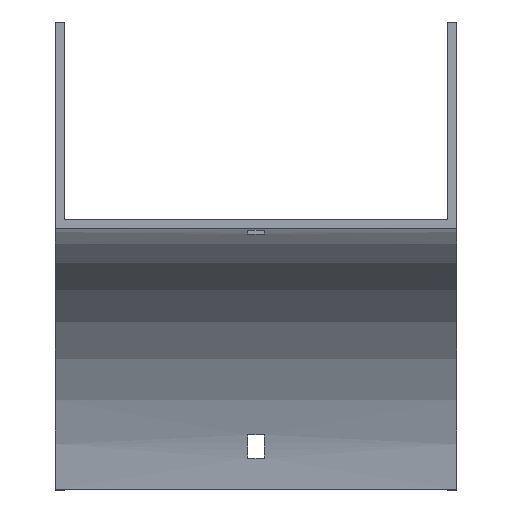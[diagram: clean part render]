
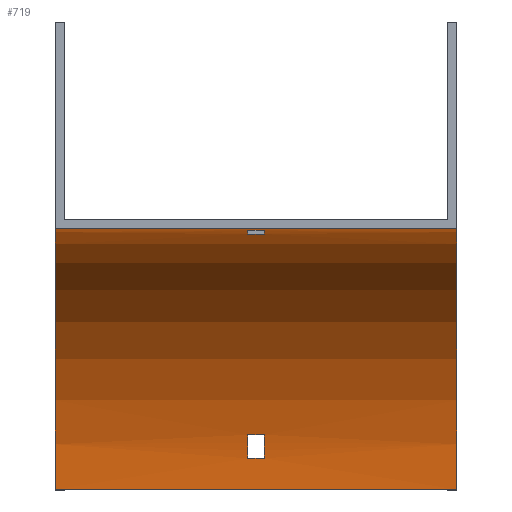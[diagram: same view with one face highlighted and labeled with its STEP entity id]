
A CAD part, top view. The second image highlights one B-rep face of the part: STEP entity #719.
In plain terms, the highlighted cylindrical face has radius 100 mm (diameter 200 mm), a partial arc.
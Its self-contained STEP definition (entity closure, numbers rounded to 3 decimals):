
#8 = LINE ( 'NONE', #390, #1460 ) ;
#20 = DIRECTION ( 'NONE',  ( 0., 0., 1. ) ) ;
#26 = CARTESIAN_POINT ( 'NONE',  ( -3.25, -100., 0. ) ) ;
#30 = CARTESIAN_POINT ( 'NONE',  ( 77., -0.723, -12. ) ) ;
#34 = ORIENTED_EDGE ( 'NONE', *, *, #503, .F. ) ;
#44 = VECTOR ( 'NONE', #522, 1000. ) ;
#61 = ORIENTED_EDGE ( 'NONE', *, *, #143, .T. ) ;
#72 = VECTOR ( 'NONE', #128, 1000. ) ;
#107 = VECTOR ( 'NONE', #1092, 1000. ) ;
#120 = DIRECTION ( 'NONE',  ( 0., 0., -1. ) ) ;
#128 = DIRECTION ( 'NONE',  ( -1., 0., 0. ) ) ;
#135 = LINE ( 'NONE', #30, #44 ) ;
#143 = EDGE_CURVE ( 'NONE', #1146, #585, #1158, .T. ) ;
#149 = DIRECTION ( 'NONE',  ( -1., 0., 0. ) ) ;
#150 = DIRECTION ( 'NONE',  ( -1., 0., 0. ) ) ;
#200 = CARTESIAN_POINT ( 'NONE',  ( 77., -100., 0. ) ) ;
#213 = EDGE_CURVE ( 'NONE', #1070, #1326, #393, .T. ) ;
#214 = AXIS2_PLACEMENT_3D ( 'NONE', #1019, #1515, #120 ) ;
#227 = ORIENTED_EDGE ( 'NONE', *, *, #1462, .F. ) ;
#228 = DIRECTION ( 'NONE',  ( -1., 0., 0. ) ) ;
#240 = AXIS2_PLACEMENT_3D ( 'NONE', #200, #1333, #1606 ) ;
#290 = EDGE_LOOP ( 'NONE', ( #1186, #227, #1531, #893 ) ) ;
#301 = ORIENTED_EDGE ( 'NONE', *, *, #1032, .T. ) ;
#302 = EDGE_CURVE ( 'NONE', #1107, #1503, #8, .T. ) ;
#308 = CARTESIAN_POINT ( 'NONE',  ( 3.25, -2.23, -21. ) ) ;
#320 = CIRCLE ( 'NONE', #240, 100. ) ;
#327 = VERTEX_POINT ( 'NONE', #693 ) ;
#344 = AXIS2_PLACEMENT_3D ( 'NONE', #634, #228, #753 ) ;
#363 = ORIENTED_EDGE ( 'NONE', *, *, #213, .F. ) ;
#375 = CIRCLE ( 'NONE', #710, 100. ) ;
#379 = LINE ( 'NONE', #1051, #1354 ) ;
#390 = CARTESIAN_POINT ( 'NONE',  ( 77., 0., 0. ) ) ;
#393 = CIRCLE ( 'NONE', #1189, 100. ) ;
#431 = LINE ( 'NONE', #700, #107 ) ;
#436 = FACE_OUTER_BOUND ( 'NONE', #290, .T. ) ;
#492 = EDGE_CURVE ( 'NONE', #1566, #1146, #946, .T. ) ;
#495 = CARTESIAN_POINT ( 'NONE',  ( -3.25, -79., -97.77 ) ) ;
#503 = EDGE_CURVE ( 'NONE', #548, #1081, #1140, .T. ) ;
#522 = DIRECTION ( 'NONE',  ( 1., 0., 0. ) ) ;
#548 = VERTEX_POINT ( 'NONE', #495 ) ;
#554 = CIRCLE ( 'NONE', #1168, 100. ) ;
#577 = DIRECTION ( 'NONE',  ( -1., 0., 0. ) ) ;
#585 = VERTEX_POINT ( 'NONE', #869 ) ;
#598 = EDGE_LOOP ( 'NONE', ( #61, #301, #1321, #1044 ) ) ;
#628 = DIRECTION ( 'NONE',  ( 0., 0., 1. ) ) ;
#634 = CARTESIAN_POINT ( 'NONE',  ( -3.25, -100., 0. ) ) ;
#654 = VERTEX_POINT ( 'NONE', #902 ) ;
#667 = EDGE_CURVE ( 'NONE', #1326, #548, #379, .T. ) ;
#675 = CARTESIAN_POINT ( 'NONE',  ( -3.25, -88., -99.277 ) ) ;
#693 = CARTESIAN_POINT ( 'NONE',  ( -77., -100., -100. ) ) ;
#694 = DIRECTION ( 'NONE',  ( 1., 0., 0. ) ) ;
#700 = CARTESIAN_POINT ( 'NONE',  ( 77., -88., -99.277 ) ) ;
#709 = AXIS2_PLACEMENT_3D ( 'NONE', #1457, #577, #1228 ) ;
#710 = AXIS2_PLACEMENT_3D ( 'NONE', #1369, #888, #628 ) ;
#719 = ADVANCED_FACE ( 'NONE', ( #436, #722, #958 ), #941, .F. ) ;
#722 = FACE_BOUND ( 'NONE', #598, .T. ) ;
#753 = DIRECTION ( 'NONE',  ( 0., 1., 0. ) ) ;
#774 = EDGE_CURVE ( 'NONE', #1107, #654, #320, .T. ) ;
#792 = CARTESIAN_POINT ( 'NONE',  ( 3.25, -100., 0. ) ) ;
#822 = CARTESIAN_POINT ( 'NONE',  ( -3.25, -0.723, -12. ) ) ;
#869 = CARTESIAN_POINT ( 'NONE',  ( -3.25, -2.23, -21. ) ) ;
#888 = DIRECTION ( 'NONE',  ( -1., 0., 0. ) ) ;
#893 = ORIENTED_EDGE ( 'NONE', *, *, #302, .T. ) ;
#902 = CARTESIAN_POINT ( 'NONE',  ( 77., -100., -100. ) ) ;
#919 = DIRECTION ( 'NONE',  ( -1., 0., 0. ) ) ;
#938 = CARTESIAN_POINT ( 'NONE',  ( 3.25, -88., -99.277 ) ) ;
#941 = CYLINDRICAL_SURFACE ( 'NONE', #709, 100. ) ;
#946 = CIRCLE ( 'NONE', #214, 100. ) ;
#958 = FACE_BOUND ( 'NONE', #973, .T. ) ;
#973 = EDGE_LOOP ( 'NONE', ( #34, #1497, #363, #1026 ) ) ;
#1019 = CARTESIAN_POINT ( 'NONE',  ( 3.25, -100., 0. ) ) ;
#1026 = ORIENTED_EDGE ( 'NONE', *, *, #1144, .F. ) ;
#1032 = EDGE_CURVE ( 'NONE', #585, #1641, #554, .T. ) ;
#1041 = DIRECTION ( 'NONE',  ( 0., -1., 0. ) ) ;
#1044 = ORIENTED_EDGE ( 'NONE', *, *, #492, .T. ) ;
#1051 = CARTESIAN_POINT ( 'NONE',  ( 77., -79., -97.77 ) ) ;
#1064 = CARTESIAN_POINT ( 'NONE',  ( -77., 0., 0. ) ) ;
#1070 = VERTEX_POINT ( 'NONE', #938 ) ;
#1081 = VERTEX_POINT ( 'NONE', #675 ) ;
#1092 = DIRECTION ( 'NONE',  ( 1., 0., 0. ) ) ;
#1107 = VERTEX_POINT ( 'NONE', #1438 ) ;
#1140 = CIRCLE ( 'NONE', #344, 100. ) ;
#1144 = EDGE_CURVE ( 'NONE', #1081, #1070, #431, .T. ) ;
#1146 = VERTEX_POINT ( 'NONE', #308 ) ;
#1158 = LINE ( 'NONE', #1296, #72 ) ;
#1168 = AXIS2_PLACEMENT_3D ( 'NONE', #26, #694, #20 ) ;
#1178 = LINE ( 'NONE', #1324, #1331 ) ;
#1186 = ORIENTED_EDGE ( 'NONE', *, *, #1319, .T. ) ;
#1189 = AXIS2_PLACEMENT_3D ( 'NONE', #792, #1318, #1041 ) ;
#1228 = DIRECTION ( 'NONE',  ( 0., 0., 1. ) ) ;
#1296 = CARTESIAN_POINT ( 'NONE',  ( 77., -2.23, -21. ) ) ;
#1318 = DIRECTION ( 'NONE',  ( 1., 0., 0. ) ) ;
#1319 = EDGE_CURVE ( 'NONE', #1503, #327, #375, .T. ) ;
#1321 = ORIENTED_EDGE ( 'NONE', *, *, #1553, .T. ) ;
#1324 = CARTESIAN_POINT ( 'NONE',  ( 77., -100., -100. ) ) ;
#1326 = VERTEX_POINT ( 'NONE', #1684 ) ;
#1331 = VECTOR ( 'NONE', #150, 1000. ) ;
#1333 = DIRECTION ( 'NONE',  ( -1., 0., 0. ) ) ;
#1354 = VECTOR ( 'NONE', #149, 1000. ) ;
#1369 = CARTESIAN_POINT ( 'NONE',  ( -77., -100., 0. ) ) ;
#1438 = CARTESIAN_POINT ( 'NONE',  ( 77., 0., 0. ) ) ;
#1457 = CARTESIAN_POINT ( 'NONE',  ( 77., -100., 0. ) ) ;
#1460 = VECTOR ( 'NONE', #919, 1000. ) ;
#1462 = EDGE_CURVE ( 'NONE', #654, #327, #1178, .T. ) ;
#1497 = ORIENTED_EDGE ( 'NONE', *, *, #667, .F. ) ;
#1503 = VERTEX_POINT ( 'NONE', #1064 ) ;
#1515 = DIRECTION ( 'NONE',  ( -1., 0., 0. ) ) ;
#1531 = ORIENTED_EDGE ( 'NONE', *, *, #774, .F. ) ;
#1553 = EDGE_CURVE ( 'NONE', #1641, #1566, #135, .T. ) ;
#1566 = VERTEX_POINT ( 'NONE', #1568 ) ;
#1568 = CARTESIAN_POINT ( 'NONE',  ( 3.25, -0.723, -12. ) ) ;
#1606 = DIRECTION ( 'NONE',  ( 0., 0., 1. ) ) ;
#1641 = VERTEX_POINT ( 'NONE', #822 ) ;
#1684 = CARTESIAN_POINT ( 'NONE',  ( 3.25, -79., -97.77 ) ) ;
